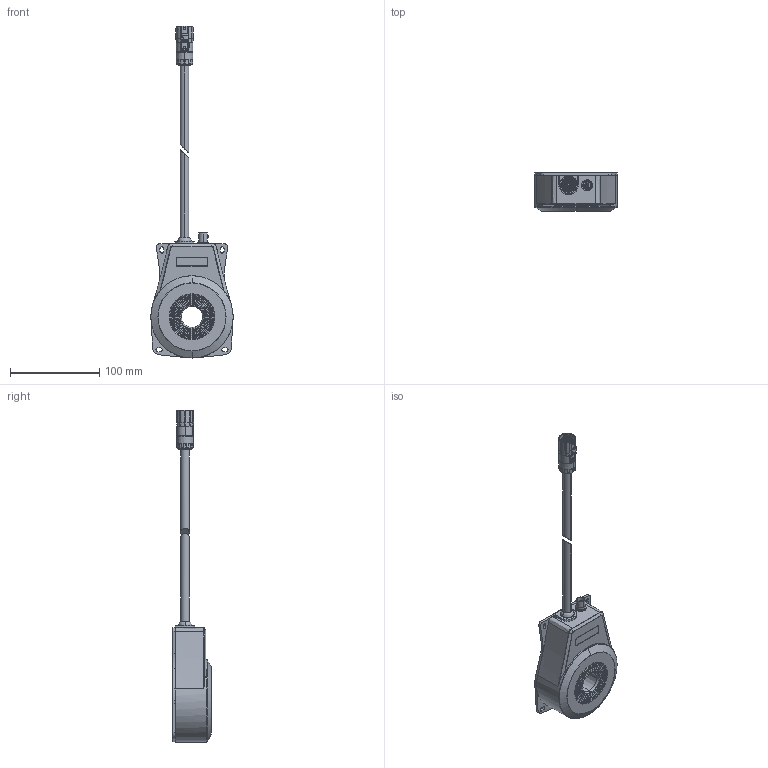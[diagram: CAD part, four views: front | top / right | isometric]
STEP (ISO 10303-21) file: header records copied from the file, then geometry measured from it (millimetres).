
FILE_DESCRIPTION (( 'STEP AP214' ), '1' );
FILE_NAME ('1212500001-Shell.STEP', '2023-09-26T06:22:44', ( '' ), ( '' ), 'SwSTEP 2.0', 'SolidWorks 2022', '' );
FILE_SCHEMA (( 'AUTOMOTIVE_DESIGN' ));
Length unit declared in the file: millimetre
Products named in the file (1): 1212500001-Shell
Bounding box: 92 x 43 x 371.18 mm (x, y, z)
Surface area: 63428.1 mm2 (no closed solid volume)
Topology: 0 solids, 50 shells, 864 faces, 2863 edges, 1962 vertices
Faces by surface type: cylinder 272, cone 181, bspline 166, plane 162, torus 74, sphere 9
Entity records: 54392 total; most frequent: CARTESIAN_POINT 21761, ORIENTED_EDGE 4715, DIRECTION 4509, EDGE_CURVE 2858, VERTEX_POINT 1962, AXIS2_PLACEMENT_3D 1873, CIRCLE 1174, EDGE_LOOP 962
